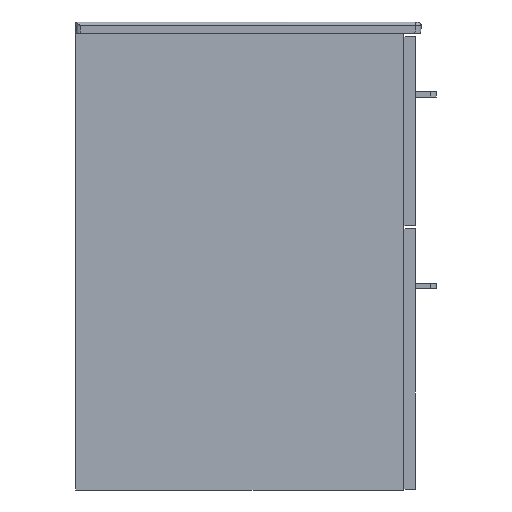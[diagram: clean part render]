
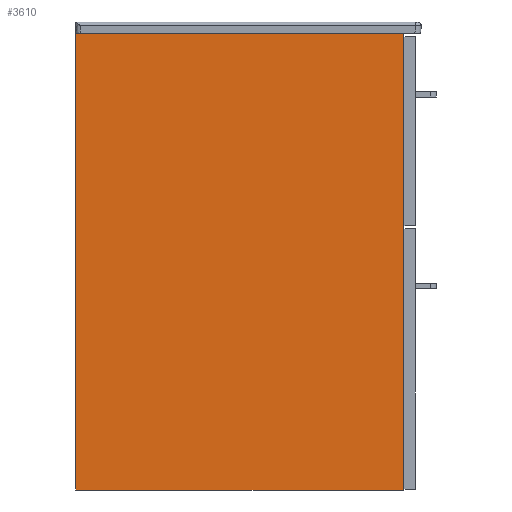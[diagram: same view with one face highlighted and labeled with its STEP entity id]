
A CAD part, left-side view. The second image highlights one B-rep face of the part: STEP entity #3610.
In plain terms, the highlighted planar face has unit normal (-1, 0, 0).
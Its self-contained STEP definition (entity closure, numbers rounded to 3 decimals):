
#194=PLANE('',#3933);
#444=LINE('',#18023,#700);
#445=LINE('',#18025,#701);
#446=LINE('',#18027,#702);
#447=LINE('',#18028,#703);
#700=VECTOR('',#4689,10.);
#701=VECTOR('',#4690,10.);
#702=VECTOR('',#4691,10.);
#703=VECTOR('',#4692,10.);
#935=FACE_OUTER_BOUND('',#1147,.T.);
#1147=EDGE_LOOP('',(#3160,#3161,#3162,#3163));
#1691=VERTEX_POINT('',#18021);
#1692=VERTEX_POINT('',#18022);
#1693=VERTEX_POINT('',#18024);
#1694=VERTEX_POINT('',#18026);
#2186=EDGE_CURVE('',#1691,#1692,#444,.T.);
#2187=EDGE_CURVE('',#1691,#1693,#445,.T.);
#2188=EDGE_CURVE('',#1694,#1693,#446,.T.);
#2189=EDGE_CURVE('',#1692,#1694,#447,.T.);
#3160=ORIENTED_EDGE('',*,*,#2186,.F.);
#3161=ORIENTED_EDGE('',*,*,#2187,.T.);
#3162=ORIENTED_EDGE('',*,*,#2188,.F.);
#3163=ORIENTED_EDGE('',*,*,#2189,.F.);
#3610=ADVANCED_FACE('',(#935),#194,.T.);
#3933=AXIS2_PLACEMENT_3D('',#18020,#4687,#4688);
#4687=DIRECTION('center_axis',(-1.,0.,0.));
#4688=DIRECTION('ref_axis',(0.,0.,-1.));
#4689=DIRECTION('',(0.,0.,1.));
#4690=DIRECTION('',(0.,-1.,0.));
#4691=DIRECTION('',(0.,0.,-1.));
#4692=DIRECTION('',(0.,-1.,0.));
#18020=CARTESIAN_POINT('Origin',(-269.,0.,636.));
#18021=CARTESIAN_POINT('',(-269.,0.,0.));
#18022=CARTESIAN_POINT('',(-269.,0.,636.));
#18023=CARTESIAN_POINT('',(-269.,0.,0.));
#18024=CARTESIAN_POINT('',(-269.,-456.,0.));
#18025=CARTESIAN_POINT('',(-269.,0.,0.));
#18026=CARTESIAN_POINT('',(-269.,-456.,636.));
#18027=CARTESIAN_POINT('',(-269.,-456.,0.));
#18028=CARTESIAN_POINT('',(-269.,0.,636.));
